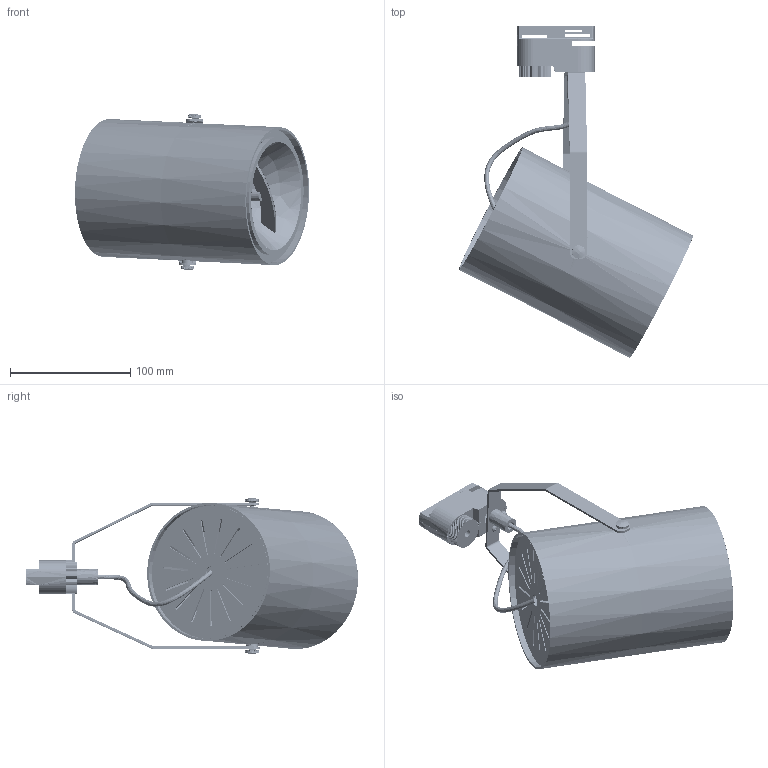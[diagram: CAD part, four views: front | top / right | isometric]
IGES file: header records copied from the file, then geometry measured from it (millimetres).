
Start section: SolidWorks IGES file using analytic representation for surfaces
Global section: file name: Z:\Modele 3D_WWW\_KOLEKCJE_WWW\PROFILE SYSTEM\PROFILE_BIT_PLUS_9020_9018\PROFILE_BIT_PLUS_9020_9018.IGS; native system: SolidWorks 2020; preprocessor: SolidWorks 2020; author: gabriela.tworek; date: 210216.135400; units: millimetre
Bounding box: 195 x 276.56 x 130.14 mm (x, y, z)
Surface area: 221898 mm2 (no closed solid volume)
Topology: 0 solids, 0 shells, 1798 faces, 23210 edges, 23046 vertices
Faces by surface type: bspline 967, revolution 831
